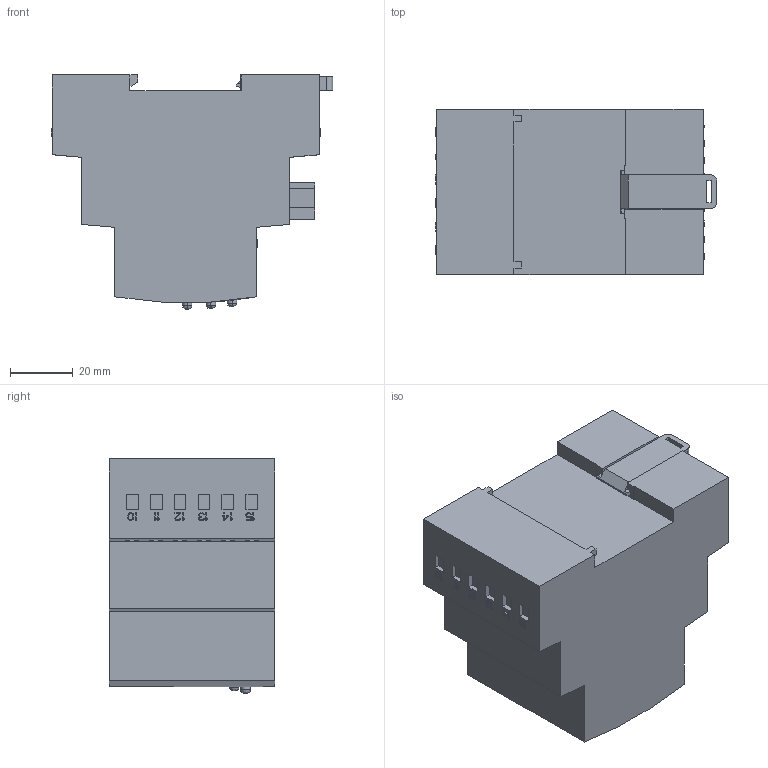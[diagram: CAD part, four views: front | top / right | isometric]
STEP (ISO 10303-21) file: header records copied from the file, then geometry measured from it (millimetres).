
FILE_DESCRIPTION((''),'2;1');
FILE_NAME('C14467_SW0002','2016-03-03T',('mpoy'),(''),'PRO/ENGINEER BY PARAMETRIC TECHNOLOGY CORPORATION, 2013410','PRO/ENGINEER BY PARAMETRIC TECHNOLOGY CORPORATION, 2013410','');
FILE_SCHEMA(('AUTOMOTIVE_DESIGN { 1 0 10303 214 1 1 1 1 }'));
Length unit declared in the file: millimetre
Products named in the file (1): C14467_SW0002
Bounding box: 89.6 x 52.5 x 74.53 mm (x, y, z)
Volume: 240253.1 mm3; surface area: 28675.8 mm2
Topology: 1 solids, 1 shells, 913 faces, 2542 edges, 1692 vertices
Faces by surface type: plane 865, cylinder 42, bspline 6
Entity records: 45961 total; most frequent: CARTESIAN_POINT 6391, ORIENTED_EDGE 5084, DIRECTION 4314, PRESENTATION_STYLE_ASSIGNMENT 3456, STYLED_ITEM 2543, CURVE_STYLE 2542, EDGE_CURVE 2542, VECTOR 2452
